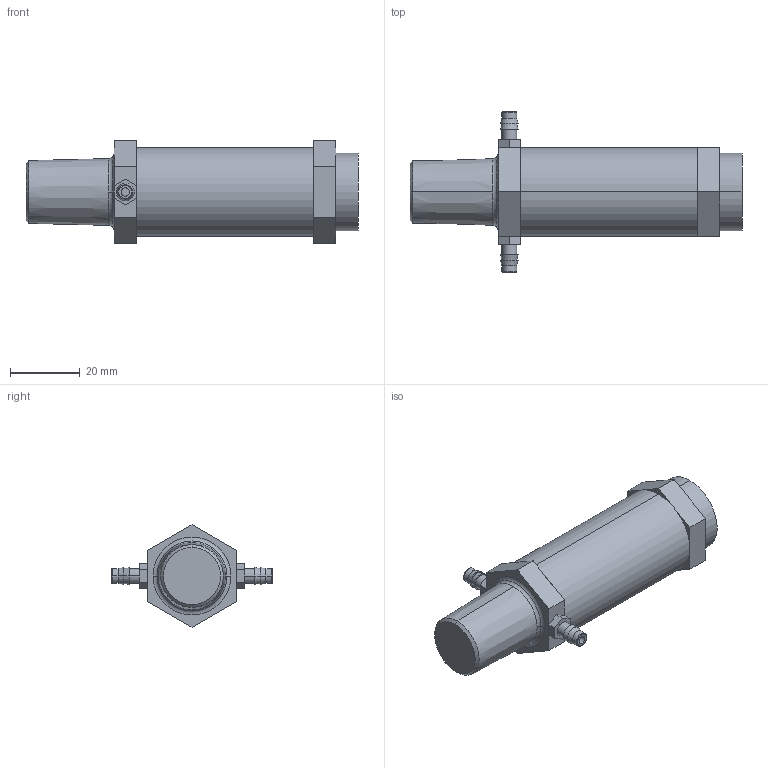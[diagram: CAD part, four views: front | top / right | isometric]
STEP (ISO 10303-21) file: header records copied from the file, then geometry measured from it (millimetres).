
FILE_DESCRIPTION((''),'2;1');
FILE_NAME('XDR2_ASM','2017-08-24T',('jennifer.elliott'),('CenterLine (Windsor) Ltd - Automation Components Division'),'PRO/ENGINEER BY PARAMETRIC TECHNOLOGY CORPORATION, 2015030','PRO/ENGINEER BY PARAMETRIC TECHNOLOGY CORPORATION, 2015030','');
FILE_SCHEMA(('AUTOMOTIVE_DESIGN { 1 0 10303 214 1 1 1 1 }'));
Length unit declared in the file: inch
Products named in the file (7): PRT1013; PRT1014; PRT1015; PRT1016; PRT1017; PRT1018; XDR2_ASM
Assembly tree (6 placements, depth 2):
  XDR2_ASM
    PRT1013
    PRT1014
    PRT1015
    PRT1016
    PRT1017
    PRT1018
Bounding box: 95.12 x 46.02 x 29.33 mm (x, y, z)
Volume: 42477.8 mm3; surface area: 11638.2 mm2
Topology: 6 solids, 6 shells, 83 faces, 177 edges, 113 vertices
Faces by surface type: plane 43, cylinder 16, torus 12, cone 12
Entity records: 2702 total; most frequent: DIRECTION 446, CARTESIAN_POINT 405, ORIENTED_EDGE 354, EDGE_CURVE 177, AXIS2_PLACEMENT_3D 173, VERTEX_POINT 113, VECTOR 100, LINE 100
